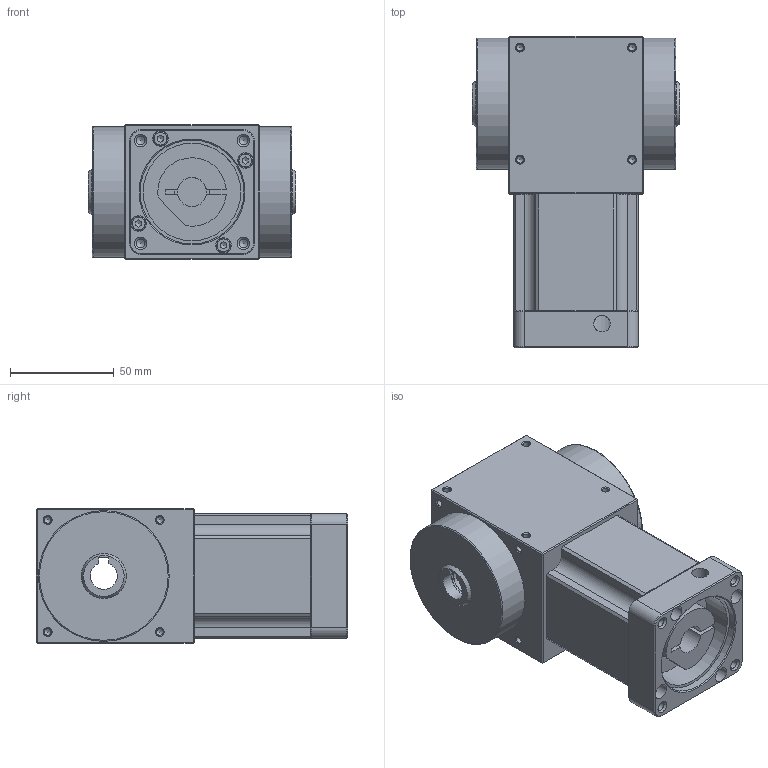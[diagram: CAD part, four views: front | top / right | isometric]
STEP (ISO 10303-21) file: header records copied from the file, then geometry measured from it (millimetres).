
FILE_DESCRIPTION((''),'2;1');
FILE_NAME('D:\유성\SBT 베벨기어박스\최종도면모음\3D\SBT065\홈페이지용\SBT065PHS003~010H.stp','2014-05-20T09:11:58',('nagyu'),(''),'Autodesk Inventor 2013','Autodesk Inventor 2013','');
FILE_SCHEMA(('AUTOMOTIVE_DESIGN { 1 0 10303 214 1 1 1 1 }'));
Length unit declared in the file: millimetre
Products named in the file (1): SBT065PHS003~010H_Shrinkwrap_1
Bounding box: 100 x 150 x 65 mm (x, y, z)
Volume: 615028.6 mm3; surface area: 67217.4 mm2
Topology: 1 solids, 5 shells, 294 faces, 762 edges, 468 vertices
Faces by surface type: plane 121, cylinder 96, cone 67, torus 10
Full cylindrical faces by diameter (mm): 3.242 x40, 4 x6, 4.134 x4, 4.5 x4, 7 x4, 7.5 x4, 8 x1, 14 x1, 17 x1, 21.7 x2, 47 x1, 50 x1, 63 x2
Entity records: 7741 total; most frequent: DIRECTION 1394, CARTESIAN_POINT 1328, ORIENTED_EDGE 1106, AXIS2_PLACEMENT_3D 571, EDGE_CURVE 553, EDGE_LOOP 462, VERTEX_POINT 399, FACE_OUTER_BOUND 294
